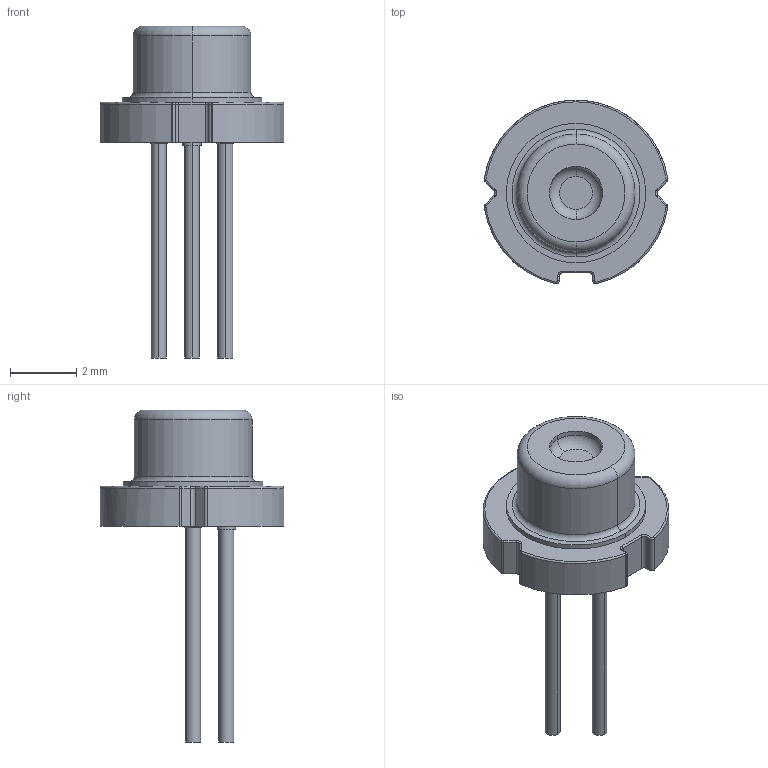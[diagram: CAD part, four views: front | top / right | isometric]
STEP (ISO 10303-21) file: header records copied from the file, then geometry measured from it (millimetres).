
FILE_DESCRIPTION (( 'STEP AP203' ), '1' );
FILE_NAME ('XPG3AUXXXX REV P1 (FILLED, ORIENTATION CHANGE).STEP', '2025-05-07T18:09:27', ( '' ), ( '' ), 'SwSTEP 2.0', 'SolidWorks 2024', '' );
FILE_SCHEMA (( 'CONFIG_CONTROL_DESIGN' ));
Length unit declared in the file: inch
Products named in the file (1): XPG3AUXXXX REV P1 (FILLED, ORIENTATION CHANGE)
Bounding box: 5.54 x 5.53 x 10 mm (x, y, z)
Volume: 54.3 mm3; surface area: 122.5 mm2
Topology: 1 solids, 1 shells, 78 faces, 175 edges, 106 vertices
Faces by surface type: cylinder 36, torus 26, plane 16
Entity records: 2280 total; most frequent: DIRECTION 451, CARTESIAN_POINT 360, ORIENTED_EDGE 350, AXIS2_PLACEMENT_3D 197, EDGE_CURVE 175, CIRCLE 118, VERTEX_POINT 106, EDGE_LOOP 85
